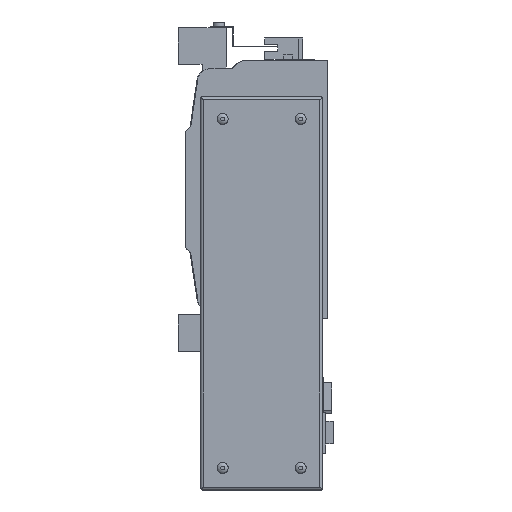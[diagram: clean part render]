
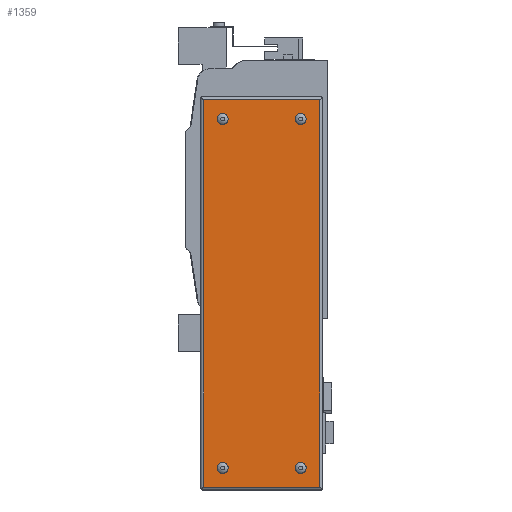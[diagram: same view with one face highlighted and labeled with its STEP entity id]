
A CAD part, left-side view. The second image highlights one B-rep face of the part: STEP entity #1359.
In plain terms, the highlighted planar face has unit normal (-1, 0, 0).
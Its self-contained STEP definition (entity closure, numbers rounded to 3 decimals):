
#1359 = ADVANCED_FACE( '', ( #2967, #2968, #2969, #2970, #2971 ), #2972, .F. );
#2967 = FACE_BOUND( '', #4850, .T. );
#2968 = FACE_BOUND( '', #4851, .T. );
#2969 = FACE_BOUND( '', #4852, .T. );
#2970 = FACE_BOUND( '', #4853, .T. );
#2971 = FACE_OUTER_BOUND( '', #4854, .T. );
#2972 = PLANE( '', #4855 );
#4850 = EDGE_LOOP( '', ( #8539 ) );
#4851 = EDGE_LOOP( '', ( #8540 ) );
#4852 = EDGE_LOOP( '', ( #8541 ) );
#4853 = EDGE_LOOP( '', ( #8542 ) );
#4854 = EDGE_LOOP( '', ( #8543, #8544, #8545, #8546 ) );
#4855 = AXIS2_PLACEMENT_3D( '', #8547, #8548, #8549 );
#8539 = ORIENTED_EDGE( '', *, *, #12195, .F. );
#8540 = ORIENTED_EDGE( '', *, *, #11268, .F. );
#8541 = ORIENTED_EDGE( '', *, *, #12196, .F. );
#8542 = ORIENTED_EDGE( '', *, *, #11818, .F. );
#8543 = ORIENTED_EDGE( '', *, *, #11080, .F. );
#8544 = ORIENTED_EDGE( '', *, *, #11678, .F. );
#8545 = ORIENTED_EDGE( '', *, *, #11713, .T. );
#8546 = ORIENTED_EDGE( '', *, *, #11610, .T. );
#8547 = CARTESIAN_POINT( '', ( -66., 0., 0. ) );
#8548 = DIRECTION( '', ( 1., 0., 0. ) );
#8549 = DIRECTION( '', ( 0., 0., -1. ) );
#11080 = EDGE_CURVE( '', #13308, #13310, #13311, .T. );
#11268 = EDGE_CURVE( '', #13623, #13623, #13624, .F. );
#11610 = EDGE_CURVE( '', #14178, #13310, #14179, .T. );
#11678 = EDGE_CURVE( '', #14287, #13308, #14290, .T. );
#11713 = EDGE_CURVE( '', #14287, #14178, #14346, .T. );
#11818 = EDGE_CURVE( '', #14505, #14505, #14506, .F. );
#12195 = EDGE_CURVE( '', #15043, #15043, #15044, .F. );
#12196 = EDGE_CURVE( '', #15045, #15045, #15046, .F. );
#13308 = VERTEX_POINT( '', #16450 );
#13310 = VERTEX_POINT( '', #16452 );
#13311 = LINE( '', #16453, #16454 );
#13623 = VERTEX_POINT( '', #16878 );
#13624 = CIRCLE( '', #16879, 3.7 );
#14178 = VERTEX_POINT( '', #17655 );
#14179 = LINE( '', #17656, #17657 );
#14287 = VERTEX_POINT( '', #17807 );
#14290 = LINE( '', #17810, #17811 );
#14346 = LINE( '', #17889, #17890 );
#14505 = VERTEX_POINT( '', #18112 );
#14506 = CIRCLE( '', #18113, 3.7 );
#15043 = VERTEX_POINT( '', #18870 );
#15044 = CIRCLE( '', #18871, 3.7 );
#15045 = VERTEX_POINT( '', #18872 );
#15046 = CIRCLE( '', #18873, 3.7 );
#16450 = CARTESIAN_POINT( '', ( -66., 5.5, 61. ) );
#16452 = CARTESIAN_POINT( '', ( -66., 5.5, -202. ) );
#16453 = CARTESIAN_POINT( '', ( -66., 5.5, 267. ) );
#16454 = VECTOR( '', #20007, 1000. );
#16878 = CARTESIAN_POINT( '', ( -66., 18.5, 44.3 ) );
#16879 = AXIS2_PLACEMENT_3D( '', #20219, #20220, #20221 );
#17655 = CARTESIAN_POINT( '', ( -66., 84.5, -202. ) );
#17656 = CARTESIAN_POINT( '', ( -66., 267., -202. ) );
#17657 = VECTOR( '', #20609, 1000. );
#17807 = CARTESIAN_POINT( '', ( -66., 84.5, 61. ) );
#17810 = CARTESIAN_POINT( '', ( -66., 267., 61. ) );
#17811 = VECTOR( '', #20688, 1000. );
#17889 = CARTESIAN_POINT( '', ( -66., 84.5, 267. ) );
#17890 = VECTOR( '', #20726, 1000. );
#18112 = CARTESIAN_POINT( '', ( -66., 71.5, 44.3 ) );
#18113 = AXIS2_PLACEMENT_3D( '', #20835, #20836, #20837 );
#18870 = CARTESIAN_POINT( '', ( -66., 71.5, -192.7 ) );
#18871 = AXIS2_PLACEMENT_3D( '', #21253, #21254, #21255 );
#18872 = CARTESIAN_POINT( '', ( -66., 18.5, -192.7 ) );
#18873 = AXIS2_PLACEMENT_3D( '', #21256, #21257, #21258 );
#20007 = DIRECTION( '', ( 0., 0., -1. ) );
#20219 = CARTESIAN_POINT( '', ( -66., 18.5, 48. ) );
#20220 = DIRECTION( '', ( 1., 0., 0. ) );
#20221 = DIRECTION( '', ( 0., 0., -1. ) );
#20609 = DIRECTION( '', ( 0., -1., 0. ) );
#20688 = DIRECTION( '', ( 0., -1., 0. ) );
#20726 = DIRECTION( '', ( 0., 0., -1. ) );
#20835 = CARTESIAN_POINT( '', ( -66., 71.5, 48. ) );
#20836 = DIRECTION( '', ( 1., 0., 0. ) );
#20837 = DIRECTION( '', ( 0., 0., -1. ) );
#21253 = CARTESIAN_POINT( '', ( -66., 71.5, -189. ) );
#21254 = DIRECTION( '', ( 1., 0., 0. ) );
#21255 = DIRECTION( '', ( 0., 0., -1. ) );
#21256 = CARTESIAN_POINT( '', ( -66., 18.5, -189. ) );
#21257 = DIRECTION( '', ( 1., 0., 0. ) );
#21258 = DIRECTION( '', ( 0., 0., -1. ) );
